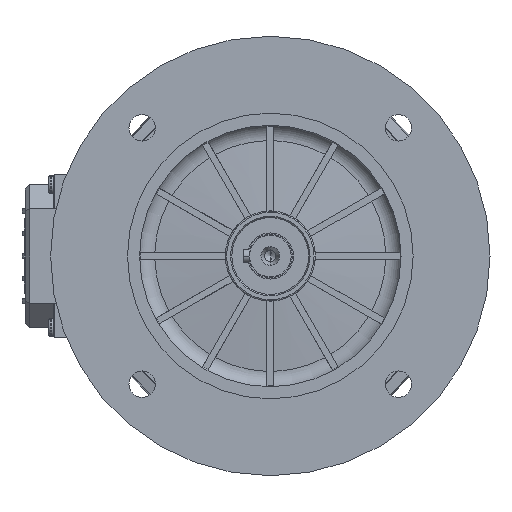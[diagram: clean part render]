
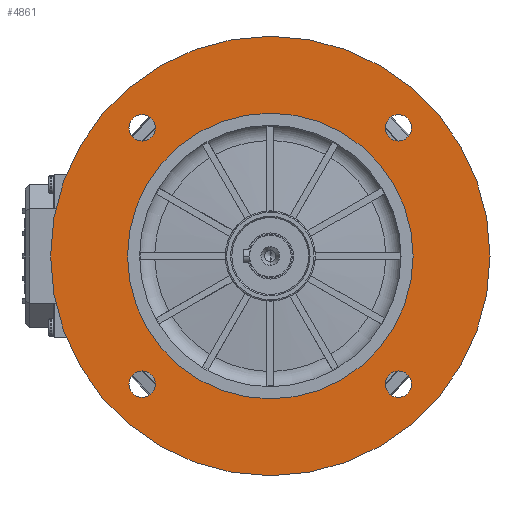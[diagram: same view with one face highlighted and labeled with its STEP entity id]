
A CAD part, left-side view. The second image highlights one B-rep face of the part: STEP entity #4861.
In plain terms, the highlighted planar face has unit normal (-1, 0, 0) as drawn and (0, -1, 0) by its records, which use the part's own axes.
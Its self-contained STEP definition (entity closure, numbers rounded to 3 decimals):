
#187 = FACE_BOUND ( 'NONE', #79848, .T. ) ;
#2595 = CARTESIAN_POINT ( 'NONE',  ( 0., 3.5, 100. ) ) ;
#2652 = DIRECTION ( 'NONE',  ( 0., 0., 1. ) ) ;
#4024 = CARTESIAN_POINT ( 'NONE',  ( 0., 3.5, 65. ) ) ;
#4861 = ADVANCED_FACE ( 'NONE', ( #80552, #41592, #28233, #187, #20892, #59810 ), #32487, .F. ) ;
#7328 = VERTEX_POINT ( 'NONE', #2595 ) ;
#9465 = EDGE_CURVE ( 'NONE', #88528, #68860, #11928, .T. ) ;
#10039 = EDGE_LOOP ( 'NONE', ( #31677, #32322 ) ) ;
#11451 = DIRECTION ( 'NONE',  ( 0., 1., 0. ) ) ;
#11894 = EDGE_CURVE ( 'NONE', #56039, #51603, #59161, .T. ) ;
#11928 = CIRCLE ( 'NONE', #34984, 65. ) ;
#15682 = DIRECTION ( 'NONE',  ( 0., 1., 0. ) ) ;
#17140 = VERTEX_POINT ( 'NONE', #62950 ) ;
#19459 = CARTESIAN_POINT ( 'NONE',  ( 58.336, 3.5, -58.336 ) ) ;
#19841 = DIRECTION ( 'NONE',  ( 0., -1., 0. ) ) ;
#19986 = AXIS2_PLACEMENT_3D ( 'NONE', #68999, #22422, #76848 ) ;
#20847 = CARTESIAN_POINT ( 'NONE',  ( -58.336, 3.5, -58.336 ) ) ;
#20892 = FACE_BOUND ( 'NONE', #44926, .T. ) ;
#22422 = DIRECTION ( 'NONE',  ( 0., -1., 0. ) ) ;
#24645 = AXIS2_PLACEMENT_3D ( 'NONE', #74112, #27494, #81893 ) ;
#25231 = CARTESIAN_POINT ( 'NONE',  ( 58.336, 3.5, -52.336 ) ) ;
#25495 = EDGE_CURVE ( 'NONE', #92439, #33400, #37829, .T. ) ;
#25646 = CARTESIAN_POINT ( 'NONE',  ( -58.336, 3.5, 58.336 ) ) ;
#26511 = CARTESIAN_POINT ( 'NONE',  ( -58.336, 3.5, 64.336 ) ) ;
#26933 = EDGE_CURVE ( 'NONE', #33400, #92439, #51532, .T. ) ;
#27295 = DIRECTION ( 'NONE',  ( 0., 0., 1. ) ) ;
#27319 = ORIENTED_EDGE ( 'NONE', *, *, #76872, .T. ) ;
#27494 = DIRECTION ( 'NONE',  ( 0., -1., 0. ) ) ;
#27884 = EDGE_CURVE ( 'NONE', #68860, #88528, #44138, .T. ) ;
#28233 = FACE_BOUND ( 'NONE', #87055, .T. ) ;
#28430 = EDGE_CURVE ( 'NONE', #7328, #69992, #51337, .T. ) ;
#28679 = DIRECTION ( 'NONE',  ( 0., 0., 1. ) ) ;
#31576 = ORIENTED_EDGE ( 'NONE', *, *, #25495, .T. ) ;
#31677 = ORIENTED_EDGE ( 'NONE', *, *, #92597, .T. ) ;
#31728 = VERTEX_POINT ( 'NONE', #25231 ) ;
#32322 = ORIENTED_EDGE ( 'NONE', *, *, #92835, .T. ) ;
#32487 = PLANE ( 'NONE',  #37945 ) ;
#33107 = CARTESIAN_POINT ( 'NONE',  ( 58.336, 3.5, 52.336 ) ) ;
#33400 = VERTEX_POINT ( 'NONE', #59849 ) ;
#33474 = DIRECTION ( 'NONE',  ( 0., 0., 1. ) ) ;
#34332 = ORIENTED_EDGE ( 'NONE', *, *, #27884, .F. ) ;
#34462 = AXIS2_PLACEMENT_3D ( 'NONE', #62234, #15682, #70107 ) ;
#34883 = AXIS2_PLACEMENT_3D ( 'NONE', #95863, #49217, #2652 ) ;
#34984 = AXIS2_PLACEMENT_3D ( 'NONE', #66405, #19841, #74297 ) ;
#35642 = CIRCLE ( 'NONE', #67680, 6. ) ;
#36155 = EDGE_LOOP ( 'NONE', ( #60073, #31576 ) ) ;
#36627 = ORIENTED_EDGE ( 'NONE', *, *, #70363, .T. ) ;
#36796 = CIRCLE ( 'NONE', #34462, 6. ) ;
#37614 = DIRECTION ( 'NONE',  ( 0., -1., 0. ) ) ;
#37829 = CIRCLE ( 'NONE', #96713, 6. ) ;
#37945 = AXIS2_PLACEMENT_3D ( 'NONE', #79081, #40292, #94708 ) ;
#38589 = CIRCLE ( 'NONE', #69348, 6. ) ;
#40292 = DIRECTION ( 'NONE',  ( 0., 1., 0. ) ) ;
#40388 = ORIENTED_EDGE ( 'NONE', *, *, #52943, .T. ) ;
#41176 = CARTESIAN_POINT ( 'NONE',  ( -58.336, 3.5, -58.336 ) ) ;
#41592 = FACE_BOUND ( 'NONE', #36155, .T. ) ;
#42507 = AXIS2_PLACEMENT_3D ( 'NONE', #41176, #95605, #48958 ) ;
#44138 = CIRCLE ( 'NONE', #55107, 65. ) ;
#44540 = CARTESIAN_POINT ( 'NONE',  ( -58.336, 3.5, 58.336 ) ) ;
#44807 = CARTESIAN_POINT ( 'NONE',  ( -58.336, 3.5, -52.336 ) ) ;
#44926 = EDGE_LOOP ( 'NONE', ( #34332, #99192 ) ) ;
#48626 = CARTESIAN_POINT ( 'NONE',  ( 0., 3.5, -65. ) ) ;
#48958 = DIRECTION ( 'NONE',  ( 0., 0., 1. ) ) ;
#49217 = DIRECTION ( 'NONE',  ( 0., 1., 0. ) ) ;
#49407 = CIRCLE ( 'NONE', #92548, 6. ) ;
#49877 = CARTESIAN_POINT ( 'NONE',  ( 58.336, 3.5, -64.336 ) ) ;
#51337 = CIRCLE ( 'NONE', #19986, 100. ) ;
#51532 = CIRCLE ( 'NONE', #34883, 6. ) ;
#51603 = VERTEX_POINT ( 'NONE', #79506 ) ;
#52328 = DIRECTION ( 'NONE',  ( 0., 0., 1. ) ) ;
#52943 = EDGE_CURVE ( 'NONE', #51603, #56039, #49407, .T. ) ;
#55107 = AXIS2_PLACEMENT_3D ( 'NONE', #84218, #37614, #92054 ) ;
#56039 = VERTEX_POINT ( 'NONE', #26511 ) ;
#56318 = ORIENTED_EDGE ( 'NONE', *, *, #11894, .T. ) ;
#58022 = CARTESIAN_POINT ( 'NONE',  ( 58.336, 3.5, 58.336 ) ) ;
#59161 = CIRCLE ( 'NONE', #91883, 6. ) ;
#59810 = FACE_OUTER_BOUND ( 'NONE', #74704, .T. ) ;
#59849 = CARTESIAN_POINT ( 'NONE',  ( 58.336, 3.5, 64.336 ) ) ;
#60073 = ORIENTED_EDGE ( 'NONE', *, *, #26933, .T. ) ;
#62234 = CARTESIAN_POINT ( 'NONE',  ( 58.336, 3.5, -58.336 ) ) ;
#62266 = CIRCLE ( 'NONE', #42507, 6. ) ;
#62950 = CARTESIAN_POINT ( 'NONE',  ( -58.336, 3.5, -64.336 ) ) ;
#64351 = CARTESIAN_POINT ( 'NONE',  ( 0., 3.5, -100. ) ) ;
#65849 = DIRECTION ( 'NONE',  ( 0., 0., 1. ) ) ;
#66405 = CARTESIAN_POINT ( 'NONE',  ( 0., 3.5, 0. ) ) ;
#67680 = AXIS2_PLACEMENT_3D ( 'NONE', #19459, #73914, #27295 ) ;
#67684 = VERTEX_POINT ( 'NONE', #44807 ) ;
#68860 = VERTEX_POINT ( 'NONE', #48626 ) ;
#68999 = CARTESIAN_POINT ( 'NONE',  ( 0., 3.5, 0. ) ) ;
#69348 = AXIS2_PLACEMENT_3D ( 'NONE', #20847, #75311, #28679 ) ;
#69992 = VERTEX_POINT ( 'NONE', #64351 ) ;
#70107 = DIRECTION ( 'NONE',  ( 0., 0., 1. ) ) ;
#70363 = EDGE_CURVE ( 'NONE', #69992, #7328, #92285, .T. ) ;
#73914 = DIRECTION ( 'NONE',  ( 0., 1., 0. ) ) ;
#74112 = CARTESIAN_POINT ( 'NONE',  ( 0., 3.5, 0. ) ) ;
#74297 = DIRECTION ( 'NONE',  ( 0., 0., -1. ) ) ;
#74704 = EDGE_LOOP ( 'NONE', ( #36627, #92311 ) ) ;
#75311 = DIRECTION ( 'NONE',  ( 0., 1., 0. ) ) ;
#76848 = DIRECTION ( 'NONE',  ( 0., 0., -1. ) ) ;
#76872 = EDGE_CURVE ( 'NONE', #67684, #17140, #62266, .T. ) ;
#79081 = CARTESIAN_POINT ( 'NONE',  ( 0., 3.5, 65. ) ) ;
#79506 = CARTESIAN_POINT ( 'NONE',  ( -58.336, 3.5, 52.336 ) ) ;
#79848 = EDGE_LOOP ( 'NONE', ( #56318, #40388 ) ) ;
#80090 = DIRECTION ( 'NONE',  ( 0., 1., 0. ) ) ;
#80552 = FACE_BOUND ( 'NONE', #10039, .T. ) ;
#81893 = DIRECTION ( 'NONE',  ( 0., 0., -1. ) ) ;
#84218 = CARTESIAN_POINT ( 'NONE',  ( 0., 3.5, 0. ) ) ;
#84871 = ORIENTED_EDGE ( 'NONE', *, *, #97208, .T. ) ;
#85225 = VERTEX_POINT ( 'NONE', #49877 ) ;
#87055 = EDGE_LOOP ( 'NONE', ( #27319, #84871 ) ) ;
#88528 = VERTEX_POINT ( 'NONE', #4024 ) ;
#91883 = AXIS2_PLACEMENT_3D ( 'NONE', #25646, #80090, #33474 ) ;
#92054 = DIRECTION ( 'NONE',  ( 0., 0., -1. ) ) ;
#92285 = CIRCLE ( 'NONE', #24645, 100. ) ;
#92311 = ORIENTED_EDGE ( 'NONE', *, *, #28430, .T. ) ;
#92439 = VERTEX_POINT ( 'NONE', #33107 ) ;
#92548 = AXIS2_PLACEMENT_3D ( 'NONE', #44540, #98985, #52328 ) ;
#92597 = EDGE_CURVE ( 'NONE', #31728, #85225, #35642, .T. ) ;
#92835 = EDGE_CURVE ( 'NONE', #85225, #31728, #36796, .T. ) ;
#94708 = DIRECTION ( 'NONE',  ( 0., 0., 1. ) ) ;
#95605 = DIRECTION ( 'NONE',  ( 0., 1., 0. ) ) ;
#95863 = CARTESIAN_POINT ( 'NONE',  ( 58.336, 3.5, 58.336 ) ) ;
#96713 = AXIS2_PLACEMENT_3D ( 'NONE', #58022, #11451, #65849 ) ;
#97208 = EDGE_CURVE ( 'NONE', #17140, #67684, #38589, .T. ) ;
#98985 = DIRECTION ( 'NONE',  ( 0., 1., 0. ) ) ;
#99192 = ORIENTED_EDGE ( 'NONE', *, *, #9465, .F. ) ;
